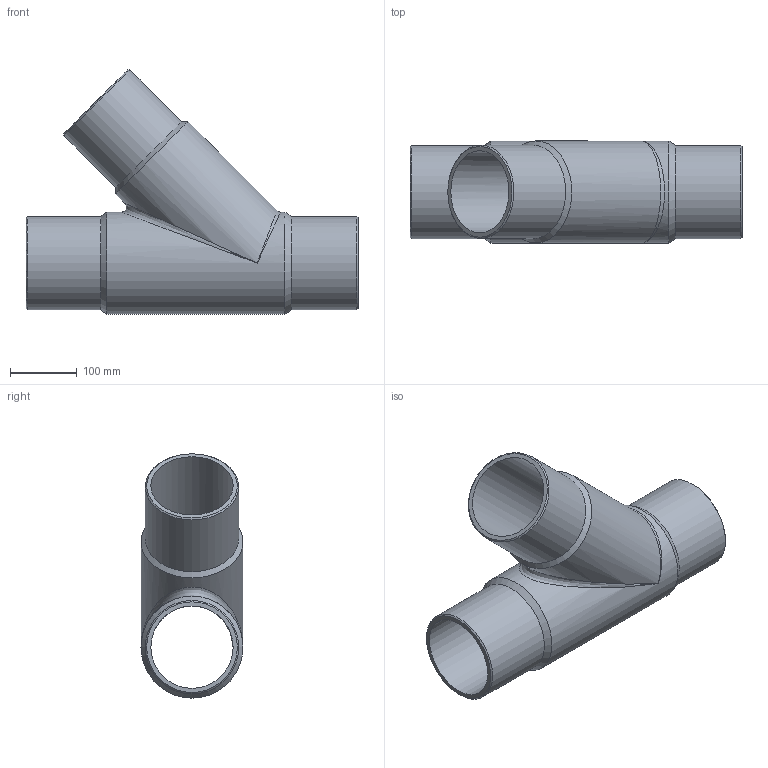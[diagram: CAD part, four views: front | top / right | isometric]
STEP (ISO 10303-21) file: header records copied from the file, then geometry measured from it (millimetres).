
FILE_DESCRIPTION(/* description */ ('Unknown'),/* implementation_level */ '2;1');
FILE_NAME(/* name */ 'T4P140B',/* time_stamp */ '2022-02-23T11:03:18+01:00',/* author */ ('Unknown'),/* organization */ ('Unknown'),/* preprocessor_version */ 'ST-DEVELOPER v18.1',/* originating_system */ 'Solid Edge',/* authorisation */ 'Unknown');
FILE_SCHEMA (('AUTOMOTIVE_DESIGN {1 0 10303 214 3 1 1}'));
Length unit declared in the file: millimetre
Products named in the file (1): T4P140B
Bounding box: 498 x 153 x 366.55 mm (x, y, z)
Volume: 3592940.3 mm3; surface area: 616740.5 mm2
Topology: 1 solids, 1 shells, 18 faces, 47 edges, 26 vertices
Faces by surface type: cylinder 7, cone 6, plane 3, bspline 2
Full cylindrical faces by diameter (mm): 123.4 x2, 140 x3, 153 x2
Entity records: 522 total; most frequent: CARTESIAN_POINT 165, DIRECTION 76, ORIENTED_EDGE 42, AXIS2_PLACEMENT_3D 38, EDGE_LOOP 36, FACE_BOUND 36, EDGE_CURVE 21, VERTEX_POINT 19
